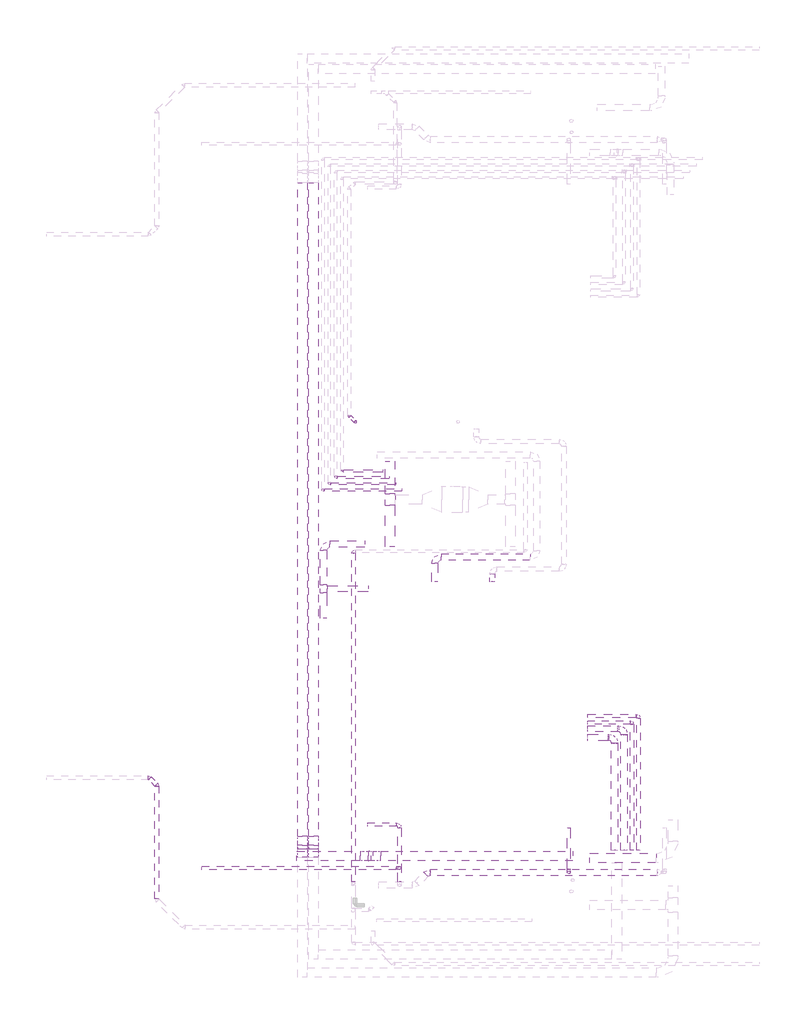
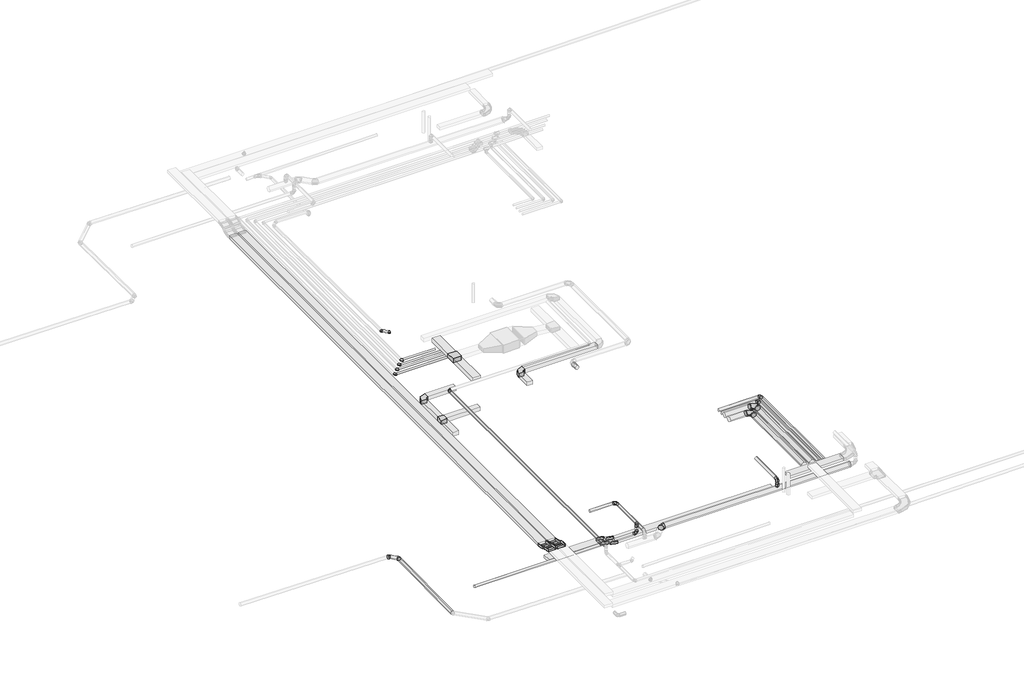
# One storey, part 2 of 5: 16 duct segments, 16 pipe segments, 13 pipe fittings, 10 duct fittings, 8 cable carrier segments, 6 cable carrier fittings.
"""IFC4 building model written with IfcOpenShell, lengths in millimetres."""

from ifc_helpers import new_model, si_unit, point, frame, frame_2d, origin, place, context, project, spatial, polyline, circle_curve, trimmed, segment, composite_curve, outline, extrude, transform, mapped, element, save
from components import m_codo_vertical_exterior_de_canal_el_547dc688, m_codo_vertical_interior_de_canal_el_a775c4ca, apt_33348139, ext_8b80eda7, ext_110b8343, ext_95de42ea, m_codo_rectangular_radio_apt_1_w_a605e9b7, m_codo_redondo_ext_1_d_96ea52f9, m_codo_redondo_ext_1_d_19f6bd6d, pipe_fitting_911ec8aa, pipe_fitting_7b861d32, pipe_fitting_f5d6ed74, pipe_fitting_3b77712d, pipe_fitting_2358b14d, pipe_fitting_3a68447e, pipe_fitting_87aeffad

model = new_model("IFC4")

# Units and contexts
model_context = context("Model", 3, world=origin())
ifc_project = project(units=[si_unit("LENGTHUNIT", "METRE", prefix="MILLI")], contexts=[model_context])

# Site, building, storey
site = spatial("IfcSite", under=ifc_project)
building = spatial("IfcBuilding", under=site)
storey = spatial("IfcBuildingStorey", under=building, Name="Nivell 01 P01_PP", Elevation=11160.0)

# Cable carrier fittings
placement = place(None, origin())
m_codo_vertical_exterior_de_canal_el_shape = m_codo_vertical_exterior_de_canal_el_547dc688(model_context)
element("IfcCableCarrierFitting", 1, ObjectType="M_Codo vertical exterior de canal : EL", at=placement, inside=storey, context=model_context, shape_type="MappedRepresentation", body=[
    mapped(m_codo_vertical_exterior_de_canal_el_shape, transform((5357.0671065, -15355.3999814, 14410.0), x_axis=(0.0, 1.0, 0.0), y_axis=(0.0, 0.0, -1.0), z_axis=(-1.0, 0.0, 0.0))),
])
element("IfcCableCarrierFitting", 2, ObjectType="M_Codo vertical exterior de canal : EL", at=placement, inside=storey, context=model_context, shape_type="MappedRepresentation", body=[
    mapped(m_codo_vertical_exterior_de_canal_el_shape, transform((5008.2381883, -15355.3999814, 14410.0), x_axis=(0.0, -0.9238795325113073, 0.38268343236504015), y_axis=(0.0, -0.38268343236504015, -0.9238795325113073), z_axis=(1.0, 0.0, 0.0))),
])
element("IfcCableCarrierFitting", 3, ObjectType="M_Codo vertical exterior de canal : EL", at=placement, inside=storey, context=model_context, shape_type="MappedRepresentation", body=[
    mapped(m_codo_vertical_exterior_de_canal_el_shape, transform((6956.7785309, -15459.2996833, 14060.0), x_axis=(1.0, 0.0, 0.0), y_axis=(0.0, 0.0, -1.0), z_axis=(0.0, 1.0, 0.0))),
])
m_codo_vertical_interior_de_canal_el_shape = m_codo_vertical_interior_de_canal_el_a775c4ca(model_context)
element("IfcCableCarrierFitting", 4, ObjectType="M_Codo vertical interior de canal : EL", at=placement, inside=storey, context=model_context, shape_type="MappedRepresentation", body=[
    mapped(m_codo_vertical_interior_de_canal_el_shape, transform((5357.0671065, -14993.267947, 14260.0), x_axis=(0.0, 0.9238795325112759, -0.38268343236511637), y_axis=(0.0, 0.38268343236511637, 0.9238795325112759), z_axis=(1.0, 0.0, 0.0))),
])
element("IfcCableCarrierFitting", 5, ObjectType="M_Codo vertical interior de canal : EL", at=placement, inside=storey, context=model_context, shape_type="MappedRepresentation", body=[
    mapped(m_codo_vertical_interior_de_canal_el_shape, transform((5008.2381883, -14993.267947, 14260.0), x_axis=(0.0, -1.0, 0.0), y_axis=(0.0, 0.0, 1.0), z_axis=(-1.0, 0.0, 0.0))),
])
element("IfcCableCarrierFitting", 6, ObjectType="M_Codo vertical interior de canal : EL", at=placement, inside=storey, context=model_context, shape_type="MappedRepresentation", body=[
    mapped(m_codo_vertical_interior_de_canal_el_shape, transform((7318.9105653, -15459.2996833, 13910.0), x_axis=(0.9238795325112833, 0.0, -0.38268343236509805), y_axis=(0.38268343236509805, 0.0, 0.9238795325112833), z_axis=(0.0, -1.0, 0.0))),
])

# Cable carrier segments
element("IfcCableCarrierSegment", 7, ObjectType="EL", at=placement, inside=storey, context=model_context, shape_type="SweptSolid", body=[
    extrude(outline(polyline([(6812.1592023, -15309.2996833), (6812.1592023, -15609.2996833), (4831.7785309, -15609.2996833), (4831.7785309, -15309.2996833), (6812.1592023, -15309.2996833)])), frame((0.0, 0.0, 14010.0), z_axis=(0.0, 0.0, 1.0), x_axis=(1.0, 0.0, 0.0)), (0.0, 0.0, 1.0), 100.0),
])
element("IfcCableCarrierSegment", 8, ObjectType="EL", at=placement, inside=storey, context=model_context, shape_type="SweptSolid", body=[
    extrude(outline(polyline([(16089.6624278, -15371.1304394), (16089.6624278, -15671.1304394), (14011.0671065, -15671.1304394), (14011.0671065, -15371.1304394), (16089.6624278, -15371.1304394)])), frame((0.0, 0.0, 14210.0), z_axis=(0.0, 0.0, 1.0), x_axis=(1.0, 0.0, 0.0)), (0.0, 0.0, 1.0), 100.0),
])
element("IfcCableCarrierSegment", 9, ObjectType="EL", at=placement, inside=storey, context=model_context, shape_type="SweptSolid", body=[
    extrude(outline(polyline([(0.0, -300.0), (0.0, 0.0), (102.7302323, 0.0), (102.7302323, -300.0), (0.0, -300.0)])), frame((5207.0671065, -15240.9233153, 14308.4626023), z_axis=(0.0, 0.38268343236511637, 0.9238795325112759), x_axis=(0.0, 0.9238795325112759, -0.38268343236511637)), (0.0, 0.0, 1.0), 100.0),
])
element("IfcCableCarrierSegment", 10, ObjectType="EL", at=placement, inside=storey, context=model_context, shape_type="SweptSolid", body=[
    extrude(outline(polyline([(5507.0671065, -14848.6486184), (5207.0671065, -14848.6486184), (5207.0671065, 5634.423571), (5507.0671065, 5634.423571), (5507.0671065, -14848.6486184)])), frame((0.0, 0.0, 14210.0), z_axis=(0.0, 0.0, 1.0), x_axis=(1.0, 0.0, 0.0)), (0.0, 0.0, 1.0), 100.0),
])
element("IfcCableCarrierSegment", 11, ObjectType="EL", at=placement, inside=storey, context=model_context, shape_type="SweptSolid", body=[
    extrude(outline(polyline([(4858.2381883, 5634.423571), (5158.2381883, 5634.423571), (5158.2381883, -14848.6486184), (4858.2381883, -14848.6486184), (4858.2381883, 5634.423571)])), frame((0.0, 0.0, 14210.0), z_axis=(0.0, 0.0, 1.0), x_axis=(1.0, 0.0, 0.0)), (0.0, 0.0, 1.0), 100.0),
])
element("IfcCableCarrierSegment", 12, ObjectType="EL", at=placement, inside=storey, context=model_context, shape_type="SweptSolid", body=[
    extrude(outline(polyline([(0.0, -300.0), (0.0, 0.0), (102.7302323, 0.0), (102.7302323, -300.0), (0.0, -300.0)])), frame((5158.2381883, -15146.0129563, 14269.1494444), z_axis=(0.0, 0.3826834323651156, 0.9238795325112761), x_axis=(0.0, -0.9238795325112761, 0.3826834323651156)), (0.0, 0.0, 1.0), 100.0),
])
element("IfcCableCarrierSegment", 13, ObjectType="EL", at=placement, inside=storey, context=model_context, shape_type="SweptSolid", body=[
    extrude(outline(polyline([(7463.5298938, -15609.2996833), (7463.5298938, -15309.2996833), (13469.9876148, -15309.2996833), (13469.9876148, -15609.2996833), (7463.5298938, -15609.2996833)])), frame((0.0, 0.0, 13860.0), z_axis=(0.0, 0.0, 1.0), x_axis=(1.0, 0.0, 0.0)), (0.0, 0.0, 1.0), 100.0),
])
element("IfcCableCarrierSegment", 14, ObjectType="EL", at=placement, inside=storey, context=model_context, shape_type="SweptSolid", body=[
    extrude(outline(polyline([(0.0, -300.0), (0.0, 0.0), (102.7302323, 0.0), (102.7302323, -300.0), (0.0, -300.0)])), frame((7071.255197, -15309.2996833, 13958.4626023), z_axis=(0.38268343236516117, 0.0, 0.9238795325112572), x_axis=(0.9238795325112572, 0.0, -0.38268343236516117)), (0.0, 0.0, 1.0), 100.0),
])

# Duct fittings
apt_shape = apt_33348139(model_context)
element("IfcDuctFitting", 15, ObjectType="M_Te rectangular : APT", at=placement, inside=storey, context=model_context, shape_type="MappedRepresentation", body=[
    mapped(apt_shape, transform((5665.7790997, -7084.7059364, 14310.0), x_axis=(0.0, 1.0, 0.0), y_axis=(-1.0, 0.0, 0.0), z_axis=(0.0, 0.0, 1.0))),
])
ext_shape = ext_8b80eda7(model_context)
element("IfcDuctFitting", 16, ObjectType="M_Toma de derivación redonda : EXT", at=placement, inside=storey, context=model_context, shape_type="MappedRepresentation", body=[
    mapped(ext_shape, transform((13350.5896993, -15972.9719502, 14340.0), x_axis=(0.0, 0.0, 1.0), y_axis=(-1.0, 0.0, 0.0), z_axis=(0.0, -1.0, 0.0))),
])
ext_2_shape = ext_110b8343(model_context)
element("IfcDuctFitting", 17, ObjectType="M_Toma de derivación redonda : EXT", at=placement, inside=storey, context=model_context, shape_type="MappedRepresentation", body=[
    mapped(ext_2_shape, transform((8050.5896993, -15837.2857017, 14560.0), x_axis=(0.0, 0.0, -1.0), y_axis=(0.0, -1.0, 0.0), z_axis=(-1.0, 0.0, 0.0))),
])
ext_3_shape = ext_95de42ea(model_context)
element("IfcDuctFitting", 18, ObjectType="M_Te rectangular : EXT", at=placement, inside=storey, context=model_context, shape_type="MappedRepresentation", body=[
    mapped(ext_3_shape, transform((7746.1618177, -4289.990201, 14427.1198525), x_axis=(0.0, 1.0, 0.0), y_axis=(-1.0, 0.0, 0.0), z_axis=(0.0, 0.0, 1.0))),
])
m_codo_rectangular_radio_apt_1_w_shape = m_codo_rectangular_radio_apt_1_w_a605e9b7(model_context)
element("IfcDuctFitting", 19, ObjectType="M_Codo rectangular - Radio : APT_1 W", at=placement, inside=storey, context=model_context, shape_type="MappedRepresentation", body=[
    mapped(m_codo_rectangular_radio_apt_1_w_shape, transform((5665.7790997, -5684.7059364, 14310.0), x_axis=(-1.0, 0.0, 0.0), y_axis=(0.0, -1.0, 0.0), z_axis=(0.0, 0.0, 1.0))),
])
element("IfcDuctFitting", 20, ObjectType="M_Codo rectangular - Radio : EXT_1 W", at=placement, inside=storey, context=model_context, shape_type="MappedRepresentation", body=[
    mapped(m_codo_rectangular_radio_apt_1_w_shape, transform((9151.1206995, -6088.8306037, 14435.0), x_axis=(-1.0, 0.0, 0.0), y_axis=(0.0, -1.0, 0.0), z_axis=(0.0, 0.0, 1.0))),
])
m_codo_redondo_ext_1_d_shape = m_codo_redondo_ext_1_d_96ea52f9(model_context)
element("IfcDuctFitting", 21, ObjectType="M_Codo redondo : EXT_1 D", at=placement, inside=storey, context=model_context, shape_type="MappedRepresentation", body=[
    mapped(m_codo_redondo_ext_1_d_shape, transform((8050.5896993, -14471.4839002, 14610.0), x_axis=(1.0, 0.0, 0.0), y_axis=(0.0, 1.0, 0.0), z_axis=(0.0, 0.0, 1.0))),
])
element("IfcDuctFitting", 22, ObjectType="M_Codo redondo : EXT_1 D", at=placement, inside=storey, context=model_context, shape_type="MappedRepresentation", body=[
    mapped(m_codo_redondo_ext_1_d_shape, transform((13350.5896993, -15972.9719502, 14610.0), x_axis=(0.0, -1.0, 0.0), y_axis=(0.0, 0.0, 1.0), z_axis=(-1.0, 0.0, 0.0))),
])
element("IfcDuctFitting", 23, ObjectType="M_Codo redondo : EXT_1 D", at=placement, inside=storey, context=model_context, shape_type="MappedRepresentation", body=[
    mapped(m_codo_redondo_ext_1_d_shape, transform((8050.5896993, -15837.2857017, 14210.0), x_axis=(0.0, 0.0, -1.0), y_axis=(1.0, 0.0, 0.0), z_axis=(0.0, -1.0, 0.0))),
])
m_codo_redondo_ext_1_d_2_shape = m_codo_redondo_ext_1_d_19f6bd6d(model_context)
element("IfcDuctFitting", 24, ObjectType="M_Codo redondo : EXT_1 D", at=placement, inside=storey, context=model_context, shape_type="MappedRepresentation", body=[
    mapped(m_codo_redondo_ext_1_d_2_shape, transform((8930.5896993, -15972.9719502, 14240.0), x_axis=(0.7071067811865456, 0.7071067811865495, 0.0), y_axis=(-0.7071067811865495, 0.7071067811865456, 0.0), z_axis=(0.0, 0.0, 1.0))),
])

# Duct segments
element("IfcDuctSegment", 25, ObjectType="APT_Fibra de vidre rígida", at=placement, inside=storey, context=model_context, shape_type="SweptSolid", body=[
    extrude(outline(polyline([(7065.7790997, -6984.7059364), (7065.7790997, -7184.7059364), (5790.7790997, -7184.7059364), (5790.7790997, -6984.7059364), (7065.7790997, -6984.7059364)])), frame((0.0, 0.0, 14235.0), z_axis=(0.0, 0.0, 1.0), x_axis=(1.0, 0.0, 0.0)), (0.0, 0.0, 1.0), 150.0),
])
element("IfcDuctSegment", 26, ObjectType="APT_Fibra de vidre rígida", at=placement, inside=storey, context=model_context, shape_type="SweptSolid", body=[
    extrude(outline(polyline([(5765.7790997, -6959.7059364), (5565.7790997, -6959.7059364), (5565.7790997, -5884.7059364), (5765.7790997, -5884.7059364), (5765.7790997, -6959.7059364)])), frame((0.0, 0.0, 14235.0), z_axis=(0.0, 0.0, 1.0), x_axis=(1.0, 0.0, 0.0)), (0.0, 0.0, 1.0), 150.0),
])
element("IfcDuctSegment", 27, ObjectType="APT_Fibra de vidre rígida", at=placement, inside=storey, context=model_context, shape_type="SweptSolid", body=[
    extrude(outline(polyline([(5865.7790997, -5784.7059364), (5865.7790997, -5584.7059364), (6965.7790997, -5584.7059364), (6965.7790997, -5784.7059364), (5865.7790997, -5784.7059364)])), frame((0.0, 0.0, 14235.0), z_axis=(0.0, 0.0, 1.0), x_axis=(1.0, 0.0, 0.0)), (0.0, 0.0, 1.0), 150.0),
])
element("IfcDuctSegment", 28, ObjectType="APT_Fibra de vidre rígida", at=placement, inside=storey, context=model_context, shape_type="SweptSolid", body=[
    extrude(outline(polyline([(5565.7790997, -7209.7059364), (5765.7790997, -7209.7059364), (5765.7790997, -8009.7059364), (5565.7790997, -8009.7059364), (5565.7790997, -7209.7059364)])), frame((0.0, 0.0, 14235.0), z_axis=(0.0, 0.0, 1.0), x_axis=(1.0, 0.0, 0.0)), (0.0, 0.0, 1.0), 150.0),
])
element("IfcDuctSegment", 29, ObjectType="EXT_Fibra de vidre rígida", at=placement, inside=storey, context=model_context, shape_type="SweptSolid", body=[
    extrude(outline(polyline([(9351.1206995, -6188.8306037), (9351.1206995, -5988.8306037), (12151.1206995, -5988.8306037), (12151.1206995, -6188.8306037), (9351.1206995, -6188.8306037)])), frame((0.0, 0.0, 14360.0), z_axis=(0.0, 0.0, 1.0), x_axis=(1.0, 0.0, 0.0)), (0.0, 0.0, 1.0), 150.0),
])
element("IfcDuctSegment", 30, ObjectType="EXT_Fibra de vidre rígida", at=placement, inside=storey, context=model_context, shape_type="SweptSolid", body=[
    extrude(outline(polyline([(9251.1206995, -6868.8306037), (9051.1206995, -6868.8306037), (9051.1206995, -6288.8306037), (9251.1206995, -6288.8306037), (9251.1206995, -6868.8306037)])), frame((0.0, 0.0, 14360.0), z_axis=(0.0, 0.0, 1.0), x_axis=(1.0, 0.0, 0.0)), (0.0, 0.0, 1.0), 150.0),
])
element("IfcDuctSegment", 31, ObjectType="EXT_Acer Galvanitzat - Rígid", at=placement, inside=storey, context=model_context, shape_type="SweptSolid", body=[
    extrude(outline(composite_curve([segment(trimmed(circle_curve(frame_2d((14435.0, 10951.1206995)), 75.0), [point((14435.0, 11026.1206995))], [point((14510.0, 10951.1206995))], False, "CARTESIAN"), True, "CONTINUOUS"), segment(trimmed(circle_curve(frame_2d((14435.0, 10951.1206995)), 75.0), [point((14510.0, 10951.1206995))], [point((14435.0, 10876.1206995))], False, "CARTESIAN"), True, "CONTINUOUS"), segment(trimmed(circle_curve(frame_2d((14435.0, 10951.1206995)), 75.0), [point((14435.0, 10876.1206995))], [point((14360.0, 10951.1206995))], False, "CARTESIAN"), True, "CONTINUOUS"), segment(trimmed(circle_curve(frame_2d((14435.0, 10951.1206995)), 75.0), [point((14360.0, 10951.1206995))], [point((14435.0, 11026.1206995))], False, "CARTESIAN"), True, "CONTINUOUS")], self_intersect=False)), frame((0.0, -6868.8306037, 0.0), z_axis=(0.0, 1.0, 0.0), x_axis=(0.0, 0.0, 1.0)), (0.0, 0.0, 1.0), 250.0),
])
element("IfcDuctSegment", 32, ObjectType="EXT_Acer Galvanitzat - Rígid", at=placement, inside=storey, context=model_context, shape_type="SweptSolid", body=[
    extrude(outline(composite_curve([segment(trimmed(circle_curve(frame_2d((-15972.9719502, 14240.0)), 100.0), [point((-15872.9719502, 14240.0))], [point((-15972.9719502, 14140.0))], False, "CARTESIAN"), True, "CONTINUOUS"), segment(trimmed(circle_curve(frame_2d((-15972.9719502, 14240.0)), 100.0), [point((-15972.9719502, 14140.0))], [point((-16072.9719502, 14240.0))], False, "CARTESIAN"), True, "CONTINUOUS"), segment(trimmed(circle_curve(frame_2d((-15972.9719502, 14240.0)), 100.0), [point((-16072.9719502, 14240.0))], [point((-15972.9719502, 14340.0))], False, "CARTESIAN"), True, "CONTINUOUS"), segment(trimmed(circle_curve(frame_2d((-15972.9719502, 14240.0)), 100.0), [point((-15972.9719502, 14340.0))], [point((-15872.9719502, 14240.0))], False, "CARTESIAN"), True, "CONTINUOUS")], self_intersect=False)), frame((9013.4324117, 0.0, 0.0), z_axis=(1.0, 0.0, 0.0), x_axis=(0.0, 1.0, 0.0)), (0.0, 0.0, 1.0), 7116.4466094),
])
element("IfcDuctSegment", 33, ObjectType="EXT_Acer Galvanitzat - Rígid", at=placement, inside=storey, context=model_context, shape_type="SweptSolid", body=[
    extrude(outline(composite_curve([segment(trimmed(circle_curve(frame_2d((-14471.4839002, 14610.0)), 50.0), [point((-14521.4839002, 14610.0))], [point((-14471.4839002, 14660.0))], False, "CARTESIAN"), True, "CONTINUOUS"), segment(trimmed(circle_curve(frame_2d((-14471.4839002, 14610.0)), 50.0), [point((-14471.4839002, 14660.0))], [point((-14421.4839002, 14610.0))], False, "CARTESIAN"), True, "CONTINUOUS"), segment(trimmed(circle_curve(frame_2d((-14471.4839002, 14610.0)), 50.0), [point((-14421.4839002, 14610.0))], [point((-14471.4839002, 14560.0))], False, "CARTESIAN"), True, "CONTINUOUS"), segment(trimmed(circle_curve(frame_2d((-14471.4839002, 14610.0)), 50.0), [point((-14471.4839002, 14560.0))], [point((-14521.4839002, 14610.0))], False, "CARTESIAN"), True, "CONTINUOUS")], self_intersect=False)), frame((7050.5896993, 0.0, 0.0), z_axis=(1.0, 0.0, 0.0), x_axis=(0.0, 1.0, 0.0)), (0.0, 0.0, 1.0), 900.0),
])
element("IfcDuctSegment", 34, ObjectType="EXT_Acer Galvanitzat - Rígid", at=placement, inside=storey, context=model_context, shape_type="SweptSolid", body=[
    extrude(outline(composite_curve([segment(trimmed(circle_curve(frame_2d((14610.0, 8050.5896993)), 50.0), [point((14610.0, 8100.5896993))], [point((14660.0, 8050.5896993))], False, "CARTESIAN"), True, "CONTINUOUS"), segment(trimmed(circle_curve(frame_2d((14610.0, 8050.5896993)), 50.0), [point((14660.0, 8050.5896993))], [point((14610.0, 8000.5896993))], False, "CARTESIAN"), True, "CONTINUOUS"), segment(trimmed(circle_curve(frame_2d((14610.0, 8050.5896993)), 50.0), [point((14610.0, 8000.5896993))], [point((14560.0, 8050.5896993))], False, "CARTESIAN"), True, "CONTINUOUS"), segment(trimmed(circle_curve(frame_2d((14610.0, 8050.5896993)), 50.0), [point((14560.0, 8050.5896993))], [point((14610.0, 8100.5896993))], False, "CARTESIAN"), True, "CONTINUOUS")], self_intersect=False)), frame((0.0, -16272.9719502, 0.0), z_axis=(0.0, 1.0, 0.0), x_axis=(0.0, 0.0, 1.0)), (0.0, 0.0, 1.0), 1701.48805),
])
element("IfcDuctSegment", 35, ObjectType="EXT_Acer Galvanitzat - Rígid", at=placement, inside=storey, context=model_context, shape_type="SweptSolid", body=[
    extrude(outline(composite_curve([segment(trimmed(circle_curve(frame_2d((14610.0, 13350.5896993)), 50.0), [point((14610.0, 13400.5896993))], [point((14660.0, 13350.5896993))], False, "CARTESIAN"), True, "CONTINUOUS"), segment(trimmed(circle_curve(frame_2d((14610.0, 13350.5896993)), 50.0), [point((14660.0, 13350.5896993))], [point((14610.0, 13300.5896993))], False, "CARTESIAN"), True, "CONTINUOUS"), segment(trimmed(circle_curve(frame_2d((14610.0, 13350.5896993)), 50.0), [point((14610.0, 13300.5896993))], [point((14560.0, 13350.5896993))], False, "CARTESIAN"), True, "CONTINUOUS"), segment(trimmed(circle_curve(frame_2d((14610.0, 13350.5896993)), 50.0), [point((14560.0, 13350.5896993))], [point((14610.0, 13400.5896993))], False, "CARTESIAN"), True, "CONTINUOUS")], self_intersect=False)), frame((0.0, -15872.9719502, 0.0), z_axis=(0.0, 1.0, 0.0), x_axis=(0.0, 0.0, 1.0)), (0.0, 0.0, 1.0), 1301.48805),
])
element("IfcDuctSegment", 36, ObjectType="EXT_Acer Galvanitzat - Rígid", at=placement, inside=storey, context=model_context, shape_type="SweptSolid", body=[
    extrude(outline(composite_curve([segment(trimmed(circle_curve(frame_2d((13350.5896993, -15972.9719502)), 50.0), [point((13300.5896993, -15972.9719502))], [point((13350.5896993, -15922.9719502))], False, "CARTESIAN"), True, "CONTINUOUS"), segment(trimmed(circle_curve(frame_2d((13350.5896993, -15972.9719502)), 50.0), [point((13350.5896993, -15922.9719502))], [point((13400.5896993, -15972.9719502))], False, "CARTESIAN"), True, "CONTINUOUS"), segment(trimmed(circle_curve(frame_2d((13350.5896993, -15972.9719502)), 50.0), [point((13400.5896993, -15972.9719502))], [point((13350.5896993, -16022.9719502))], False, "CARTESIAN"), True, "CONTINUOUS"), segment(trimmed(circle_curve(frame_2d((13350.5896993, -15972.9719502)), 50.0), [point((13350.5896993, -16022.9719502))], [point((13300.5896993, -15972.9719502))], False, "CARTESIAN"), True, "CONTINUOUS")], self_intersect=False)), frame((0.0, 0.0, 14441.6), z_axis=(0.0, 0.0, 1.0), x_axis=(1.0, 0.0, 0.0)), (0.0, 0.0, 1.0), 68.4),
])
element("IfcDuctSegment", 37, ObjectType="EXT_Acer Galvanitzat - Rígid", at=placement, inside=storey, context=model_context, shape_type="SweptSolid", body=[
    extrude(outline(composite_curve([segment(trimmed(circle_curve(frame_2d((8050.5896993, -15837.2857017)), 50.0), [point((8050.5896993, -15787.2857017))], [point((8100.5896993, -15837.2857017))], False, "CARTESIAN"), True, "CONTINUOUS"), segment(trimmed(circle_curve(frame_2d((8050.5896993, -15837.2857017)), 50.0), [point((8100.5896993, -15837.2857017))], [point((8050.5896993, -15887.2857017))], False, "CARTESIAN"), True, "CONTINUOUS"), segment(trimmed(circle_curve(frame_2d((8050.5896993, -15837.2857017)), 50.0), [point((8050.5896993, -15887.2857017))], [point((8000.5896993, -15837.2857017))], False, "CARTESIAN"), True, "CONTINUOUS"), segment(trimmed(circle_curve(frame_2d((8050.5896993, -15837.2857017)), 50.0), [point((8000.5896993, -15837.2857017))], [point((8050.5896993, -15787.2857017))], False, "CARTESIAN"), True, "CONTINUOUS")], self_intersect=False)), frame((0.0, 0.0, 14310.0), z_axis=(0.0, 0.0, 1.0), x_axis=(1.0, 0.0, 0.0)), (0.0, 0.0, 1.0), 148.4),
])
element("IfcDuctSegment", 38, ObjectType="EXT_Acer Galvanitzat - Rígid", at=placement, inside=storey, context=model_context, shape_type="SweptSolid", body=[
    extrude(outline(composite_curve([segment(trimmed(circle_curve(frame_2d((-15837.2857017, 14210.0)), 50.0), [point((-15787.2857017, 14210.0))], [point((-15837.2857017, 14160.0))], False, "CARTESIAN"), True, "CONTINUOUS"), segment(trimmed(circle_curve(frame_2d((-15837.2857017, 14210.0)), 50.0), [point((-15837.2857017, 14160.0))], [point((-15887.2857017, 14210.0))], False, "CARTESIAN"), True, "CONTINUOUS"), segment(trimmed(circle_curve(frame_2d((-15837.2857017, 14210.0)), 50.0), [point((-15887.2857017, 14210.0))], [point((-15837.2857017, 14260.0))], False, "CARTESIAN"), True, "CONTINUOUS"), segment(trimmed(circle_curve(frame_2d((-15837.2857017, 14210.0)), 50.0), [point((-15837.2857017, 14260.0))], [point((-15787.2857017, 14210.0))], False, "CARTESIAN"), True, "CONTINUOUS")], self_intersect=False)), frame((1850.5896993, 0.0, 0.0), z_axis=(1.0, 0.0, 0.0), x_axis=(0.0, 1.0, 0.0)), (0.0, 0.0, 1.0), 6100.0),
])
element("IfcDuctSegment", 39, ObjectType="EXT_Planxa galvanitzada", at=placement, inside=storey, context=model_context, shape_type="SweptSolid", body=[
    extrude(outline(polyline([(7896.1618177, -4114.9902017), (7596.1618177, -4114.9902002), (7596.1618227, -3089.9878578), (7896.1618227, -3089.9878592), (7896.1618177, -4114.9902017)])), frame((0.0, 0.0, 14352.1198525), z_axis=(0.0, 0.0, 1.0), x_axis=(1.0, 0.0, 0.0)), (0.0, 0.0, 1.0), 150.0),
])
element("IfcDuctSegment", 40, ObjectType="EXT_Planxa galvanitzada", at=placement, inside=storey, context=model_context, shape_type="SweptSolid", body=[
    extrude(outline(polyline([(7596.1618177, -4464.9902015), (7896.1618177, -4464.9902004), (7896.1618227, -5765.056672), (7596.1618227, -5765.0566731), (7596.1618177, -4464.9902015)])), frame((0.0, 0.0, 14352.1198525), z_axis=(0.0, 0.0, 1.0), x_axis=(1.0, 0.0, 0.0)), (0.0, 0.0, 1.0), 150.0),
])

# Pipe fittings
pipe_fitting_shape = pipe_fitting_911ec8aa(model_context)
element("IfcPipeFitting", 41, ObjectType="M_Codo - Genérico : Estándar", at=placement, inside=storey, context=model_context, shape_type="MappedRepresentation", body=[
    mapped(pipe_fitting_shape, transform((448.2074284, -13245.5027622, 14265.4389993), x_axis=(0.7070714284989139, -0.7070714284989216, -0.009999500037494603), y_axis=(0.707130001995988, 0.7070714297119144, 0.004141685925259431), z_axis=(0.004141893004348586, -0.009999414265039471, 0.9999414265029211))),
])
element("IfcPipeFitting", 42, ObjectType="M_Codo - Genérico : Estándar", at=placement, inside=storey, context=model_context, shape_type="MappedRepresentation", body=[
    mapped(pipe_fitting_shape, transform((207.7911228, -13005.0864566, 14268.8389993), x_axis=(0.9999500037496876, 0.0, -0.009999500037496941), y_axis=(4.141685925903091e-05, 0.9999914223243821, 0.004141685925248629), z_axis=(0.009999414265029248, -0.004141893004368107, 0.9999414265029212))),
])
pipe_fitting_2_shape = pipe_fitting_7b861d32(model_context)
element("IfcPipeFitting", 43, ObjectType="M_Codo - Genérico : Estándar", at=placement, inside=storey, context=model_context, shape_type="MappedRepresentation", body=[
    mapped(pipe_fitting_2_shape, transform((6477.7328371, -1666.9305244, 14328.3813632), x_axis=(0.0, -0.9999500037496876, 0.00999950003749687), y_axis=(0.9999914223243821, 4.1416859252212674e-05, 0.004141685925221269), z_axis=(-0.004141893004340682, 0.009999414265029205, 0.9999414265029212))),
])
pipe_fitting_3_shape = pipe_fitting_f5d6ed74(model_context)
element("IfcPipeFitting", 44, ObjectType="M_Codo - Genérico : Estándar", at=placement, inside=storey, context=model_context, shape_type="MappedRepresentation", body=[
    mapped(pipe_fitting_3_shape, transform((6662.9687849, -1852.1664722, 14331.0009951), x_axis=(0.707071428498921, -0.7070714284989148, 0.00999950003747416), y_axis=(0.7070714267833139, 0.7071300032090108, 0.004141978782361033), z_axis=(-0.009999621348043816, 0.004141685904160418, 0.9999414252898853))),
])
pipe_fitting_4_shape = pipe_fitting_3b77712d(model_context)
element("IfcPipeFitting", 45, ObjectType="M_Codo - Genérico : Estándar", at=placement, inside=storey, context=model_context, shape_type="MappedRepresentation", body=[
    mapped(pipe_fitting_4_shape, transform((15537.4352568, -11073.2087902, 14215.0), x_axis=(1.0, 0.0, 0.0), y_axis=(0.0, 1.0, 0.0), z_axis=(0.0, 0.0, 1.0))),
])
element("IfcPipeFitting", 46, ObjectType="M_Codo - Genérico : Estándar", at=placement, inside=storey, context=model_context, shape_type="MappedRepresentation", body=[
    mapped(pipe_fitting_4_shape, transform((15337.4352568, -11273.2087902, 14215.0), x_axis=(1.0, 0.0, 0.0), y_axis=(0.0, 1.0, 0.0), z_axis=(0.0, 0.0, 1.0))),
])
pipe_fitting_5_shape = pipe_fitting_2358b14d(model_context)
element("IfcPipeFitting", 47, ObjectType="Codo 90º Soldadura a Tope SDR 11 BluePipe : Estándar", at=placement, inside=storey, context=model_context, shape_type="MappedRepresentation", body=[
    mapped(pipe_fitting_5_shape, transform((14787.4352568, -11743.2087902, 14260.0), x_axis=(1.0, 0.0, 0.0), y_axis=(0.0, 1.0, 0.0), z_axis=(0.0, 0.0, 1.0))),
])
element("IfcPipeFitting", 48, ObjectType="Codo 90º Soldadura a Tope SDR 11 BluePipe : Estándar", at=placement, inside=storey, context=model_context, shape_type="MappedRepresentation", body=[
    mapped(pipe_fitting_5_shape, transform((15087.4352568, -11473.2087902, 14260.0), x_axis=(1.0, 0.0, 0.0), y_axis=(0.0, 1.0, 0.0), z_axis=(0.0, 0.0, 1.0))),
])
pipe_fitting_6_shape = pipe_fitting_3a68447e(model_context)
element("IfcPipeFitting", 49, ObjectType="M_Codo - Genérico : Estándar", at=placement, inside=storey, context=model_context, shape_type="MappedRepresentation", body=[
    mapped(pipe_fitting_6_shape, transform((6245.7381883, -3394.9253722, 14272.5), x_axis=(0.0, -1.0, 0.0), y_axis=(1.0, 0.0, 0.0), z_axis=(0.0, 0.0, 1.0))),
])
element("IfcPipeFitting", 50, ObjectType="M_Codo - Genérico : Estándar", at=placement, inside=storey, context=model_context, shape_type="MappedRepresentation", body=[
    mapped(pipe_fitting_6_shape, transform((6045.7381883, -3594.9253722, 14272.5), x_axis=(0.0, -1.0, 0.0), y_axis=(1.0, 0.0, 0.0), z_axis=(0.0, 0.0, 1.0))),
])
element("IfcPipeFitting", 51, ObjectType="M_Codo - Genérico : Estándar", at=placement, inside=storey, context=model_context, shape_type="MappedRepresentation", body=[
    mapped(pipe_fitting_6_shape, transform((5845.7381883, -3794.9253722, 14272.5), x_axis=(0.0, -1.0, 0.0), y_axis=(1.0, 0.0, 0.0), z_axis=(0.0, 0.0, 1.0))),
])
element("IfcPipeFitting", 52, ObjectType="M_Codo - Genérico : Estándar", at=placement, inside=storey, context=model_context, shape_type="MappedRepresentation", body=[
    mapped(pipe_fitting_6_shape, transform((5645.7381883, -3994.9253722, 14272.5), x_axis=(0.0, -1.0, 0.0), y_axis=(1.0, 0.0, 0.0), z_axis=(0.0, 0.0, 1.0))),
])
pipe_fitting_7_shape = pipe_fitting_87aeffad(model_context)
element("IfcPipeFitting", 53, ObjectType="M_Codo - Genérico : Estándar", at=placement, inside=storey, context=model_context, shape_type="MappedRepresentation", body=[
    mapped(pipe_fitting_7_shape, transform((6603.8941113, -5912.8731458, 14460.8), x_axis=(-1.0, 0.0, 0.0), y_axis=(0.0, -1.0, 0.0), z_axis=(0.0, 0.0, 1.0))),
])

# Pipe segments
element("IfcPipeSegment", 54, ObjectType="PVC_Baixant", at=placement, inside=storey, context=model_context, shape_type="SweptSolid", body=[
    extrude(outline(composite_curve([segment(trimmed(circle_curve(frame_2d((1e-07, -45.0)), 45.0), [point((44.9977504, -44.550045))], [point((0.4499551, -89.9977504))], False, "CARTESIAN"), True, "CONTINUOUS"), segment(trimmed(circle_curve(frame_2d((1e-07, -45.0)), 45.0), [point((0.4499551, -89.9977504))], [point((-44.9977503, -45.449955))], False, "CARTESIAN"), True, "CONTINUOUS"), segment(trimmed(circle_curve(frame_2d((1e-07, -45.0)), 45.0), [point((-44.9977503, -45.449955))], [point((-0.449955, -0.0022497))], False, "CARTESIAN"), True, "CONTINUOUS"), segment(trimmed(circle_curve(frame_2d((1e-07, -45.0)), 45.0), [point((-0.449955, -0.0022497))], [point((44.9977504, -44.550045))], False, "CARTESIAN"), True, "CONTINUOUS")], self_intersect=False)), frame((6493.0751147, -1681.6364696, 14373.5938365), z_axis=(0.7070714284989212, -0.7070714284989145, 0.009999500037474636), x_axis=(0.7071421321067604, 0.7070007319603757, -0.009998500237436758)), (0.0, 0.0, 1.0), 218.5780692),
])
element("IfcPipeSegment", 55, ObjectType="PPR_CLI_Aquatherm Blue Pipe", at=placement, inside=storey, context=model_context, shape_type="SweptSolid", body=[
    extrude(outline(composite_curve([segment(trimmed(circle_curve(frame_2d((-3394.9253722, 14272.5)), 37.5), [point((-3432.4253722, 14272.5))], [point((-3394.9253722, 14310.0))], False, "CARTESIAN"), True, "CONTINUOUS"), segment(trimmed(circle_curve(frame_2d((-3394.9253722, 14272.5)), 37.5), [point((-3394.9253722, 14310.0))], [point((-3357.4253722, 14272.5))], False, "CARTESIAN"), True, "CONTINUOUS"), segment(trimmed(circle_curve(frame_2d((-3394.9253722, 14272.5)), 37.5), [point((-3357.4253722, 14272.5))], [point((-3394.9253722, 14235.0))], False, "CARTESIAN"), True, "CONTINUOUS"), segment(trimmed(circle_curve(frame_2d((-3394.9253722, 14272.5)), 37.5), [point((-3394.9253722, 14235.0))], [point((-3432.4253722, 14272.5))], False, "CARTESIAN"), True, "CONTINUOUS")], self_intersect=False)), frame((6291.1756883, 0.0, 0.0), z_axis=(1.0, 0.0, 0.0), x_axis=(0.0, 1.0, 0.0)), (0.0, 0.0, 1.0), 1234.603417),
])
element("IfcPipeSegment", 56, ObjectType="PPR_CLI_Aquatherm Blue Pipe", at=placement, inside=storey, context=model_context, shape_type="SweptSolid", body=[
    extrude(outline(composite_curve([segment(trimmed(circle_curve(frame_2d((-3594.9253722, 14272.5)), 37.5), [point((-3632.4253722, 14272.5))], [point((-3594.9253722, 14310.0))], False, "CARTESIAN"), True, "CONTINUOUS"), segment(trimmed(circle_curve(frame_2d((-3594.9253722, 14272.5)), 37.5), [point((-3594.9253722, 14310.0))], [point((-3557.4253722, 14272.5))], False, "CARTESIAN"), True, "CONTINUOUS"), segment(trimmed(circle_curve(frame_2d((-3594.9253722, 14272.5)), 37.5), [point((-3557.4253722, 14272.5))], [point((-3594.9253722, 14235.0))], False, "CARTESIAN"), True, "CONTINUOUS"), segment(trimmed(circle_curve(frame_2d((-3594.9253722, 14272.5)), 37.5), [point((-3594.9253722, 14235.0))], [point((-3632.4253722, 14272.5))], False, "CARTESIAN"), True, "CONTINUOUS")], self_intersect=False)), frame((6091.1756883, 0.0, 0.0), z_axis=(1.0, 0.0, 0.0), x_axis=(0.0, 1.0, 0.0)), (0.0, 0.0, 1.0), 1634.603417),
])
element("IfcPipeSegment", 57, ObjectType="PPR_CLI_Aquatherm Blue Pipe", at=placement, inside=storey, context=model_context, shape_type="SweptSolid", body=[
    extrude(outline(composite_curve([segment(trimmed(circle_curve(frame_2d((-3794.9253722, 14272.5)), 37.5), [point((-3832.4253722, 14272.5))], [point((-3794.9253722, 14310.0))], False, "CARTESIAN"), True, "CONTINUOUS"), segment(trimmed(circle_curve(frame_2d((-3794.9253722, 14272.5)), 37.5), [point((-3794.9253722, 14310.0))], [point((-3757.4253722, 14272.5))], False, "CARTESIAN"), True, "CONTINUOUS"), segment(trimmed(circle_curve(frame_2d((-3794.9253722, 14272.5)), 37.5), [point((-3757.4253722, 14272.5))], [point((-3794.9253722, 14235.0))], False, "CARTESIAN"), True, "CONTINUOUS"), segment(trimmed(circle_curve(frame_2d((-3794.9253722, 14272.5)), 37.5), [point((-3794.9253722, 14235.0))], [point((-3832.4253722, 14272.5))], False, "CARTESIAN"), True, "CONTINUOUS")], self_intersect=False)), frame((5891.1756883, 0.0, 0.0), z_axis=(1.0, 0.0, 0.0), x_axis=(0.0, 1.0, 0.0)), (0.0, 0.0, 1.0), 2034.603417),
])
element("IfcPipeSegment", 58, ObjectType="PPR_CLI_Aquatherm Blue Pipe", at=placement, inside=storey, context=model_context, shape_type="SweptSolid", body=[
    extrude(outline(composite_curve([segment(trimmed(circle_curve(frame_2d((-3994.9253722, 14272.5)), 37.5), [point((-4032.4253722, 14272.5))], [point((-3994.9253722, 14310.0))], False, "CARTESIAN"), True, "CONTINUOUS"), segment(trimmed(circle_curve(frame_2d((-3994.9253722, 14272.5)), 37.5), [point((-3994.9253722, 14310.0))], [point((-3957.4253722, 14272.5))], False, "CARTESIAN"), True, "CONTINUOUS"), segment(trimmed(circle_curve(frame_2d((-3994.9253722, 14272.5)), 37.5), [point((-3957.4253722, 14272.5))], [point((-3994.9253722, 14235.0))], False, "CARTESIAN"), True, "CONTINUOUS"), segment(trimmed(circle_curve(frame_2d((-3994.9253722, 14272.5)), 37.5), [point((-3994.9253722, 14235.0))], [point((-4032.4253722, 14272.5))], False, "CARTESIAN"), True, "CONTINUOUS")], self_intersect=False)), frame((5691.1756883, 0.0, 0.0), z_axis=(1.0, 0.0, 0.0), x_axis=(0.0, 1.0, 0.0)), (0.0, 0.0, 1.0), 2434.603417),
])
element("IfcPipeSegment", 59, ObjectType="PPR_CLI_Aquatherm Blue Pipe", at=placement, inside=storey, context=model_context, shape_type="SweptSolid", body=[
    extrude(outline(composite_curve([segment(trimmed(circle_curve(frame_2d((-11743.2087902, 14260.0)), 100.0), [point((-11643.2087902, 14260.0))], [point((-11743.2087902, 14160.0))], False, "CARTESIAN"), True, "CONTINUOUS"), segment(trimmed(circle_curve(frame_2d((-11743.2087902, 14260.0)), 100.0), [point((-11743.2087902, 14160.0))], [point((-11843.2087902, 14260.0))], False, "CARTESIAN"), True, "CONTINUOUS"), segment(trimmed(circle_curve(frame_2d((-11743.2087902, 14260.0)), 100.0), [point((-11843.2087902, 14260.0))], [point((-11743.2087902, 14360.0))], False, "CARTESIAN"), True, "CONTINUOUS"), segment(trimmed(circle_curve(frame_2d((-11743.2087902, 14260.0)), 100.0), [point((-11743.2087902, 14360.0))], [point((-11643.2087902, 14260.0))], False, "CARTESIAN"), True, "CONTINUOUS")], self_intersect=False)), frame((13947.4352568, 0.0, 0.0), z_axis=(1.0, 0.0, 0.0), x_axis=(0.0, 1.0, 0.0)), (0.0, 0.0, 1.0), 665.0),
])
element("IfcPipeSegment", 60, ObjectType="PPR_CLI_Aquatherm Blue Pipe", at=placement, inside=storey, context=model_context, shape_type="SweptSolid", body=[
    extrude(outline(composite_curve([segment(trimmed(circle_curve(frame_2d((14260.0, 14787.4352568)), 100.0), [point((14260.0, 14687.4352568))], [point((14160.0, 14787.4352568))], False, "CARTESIAN"), True, "CONTINUOUS"), segment(trimmed(circle_curve(frame_2d((14260.0, 14787.4352568)), 100.0), [point((14160.0, 14787.4352568))], [point((14260.0, 14887.4352568))], False, "CARTESIAN"), True, "CONTINUOUS"), segment(trimmed(circle_curve(frame_2d((14260.0, 14787.4352568)), 100.0), [point((14260.0, 14887.4352568))], [point((14360.0, 14787.4352568))], False, "CARTESIAN"), True, "CONTINUOUS"), segment(trimmed(circle_curve(frame_2d((14260.0, 14787.4352568)), 100.0), [point((14360.0, 14787.4352568))], [point((14260.0, 14687.4352568))], False, "CARTESIAN"), True, "CONTINUOUS")], self_intersect=False)), frame((0.0, -15273.2087902, 0.0), z_axis=(0.0, 1.0, 0.0), x_axis=(0.0, 0.0, 1.0)), (0.0, 0.0, 1.0), 3355.0),
])
element("IfcPipeSegment", 61, ObjectType="PPR_CLI_Aquatherm Blue Pipe", at=placement, inside=storey, context=model_context, shape_type="SweptSolid", body=[
    extrude(outline(composite_curve([segment(trimmed(circle_curve(frame_2d((14260.0, 15087.4352568)), 100.0), [point((14260.0, 14987.4352568))], [point((14160.0, 15087.4352568))], False, "CARTESIAN"), True, "CONTINUOUS"), segment(trimmed(circle_curve(frame_2d((14260.0, 15087.4352568)), 100.0), [point((14160.0, 15087.4352568))], [point((14260.0, 15187.4352568))], False, "CARTESIAN"), True, "CONTINUOUS"), segment(trimmed(circle_curve(frame_2d((14260.0, 15087.4352568)), 100.0), [point((14260.0, 15187.4352568))], [point((14360.0, 15087.4352568))], False, "CARTESIAN"), True, "CONTINUOUS"), segment(trimmed(circle_curve(frame_2d((14260.0, 15087.4352568)), 100.0), [point((14360.0, 15087.4352568))], [point((14260.0, 14987.4352568))], False, "CARTESIAN"), True, "CONTINUOUS")], self_intersect=False)), frame((0.0, -15273.2087902, 0.0), z_axis=(0.0, 1.0, 0.0), x_axis=(0.0, 0.0, 1.0)), (0.0, 0.0, 1.0), 3625.0),
])
element("IfcPipeSegment", 62, ObjectType="PPR_CLI_Aquatherm Blue Pipe", at=placement, inside=storey, context=model_context, shape_type="SweptSolid", body=[
    extrude(outline(composite_curve([segment(trimmed(circle_curve(frame_2d((14215.0, 15337.4352568)), 55.0), [point((14215.0, 15282.4352568))], [point((14160.0, 15337.4352568))], False, "CARTESIAN"), True, "CONTINUOUS"), segment(trimmed(circle_curve(frame_2d((14215.0, 15337.4352568)), 55.0), [point((14160.0, 15337.4352568))], [point((14215.0, 15392.4352568))], False, "CARTESIAN"), True, "CONTINUOUS"), segment(trimmed(circle_curve(frame_2d((14215.0, 15337.4352568)), 55.0), [point((14215.0, 15392.4352568))], [point((14270.0, 15337.4352568))], False, "CARTESIAN"), True, "CONTINUOUS"), segment(trimmed(circle_curve(frame_2d((14215.0, 15337.4352568)), 55.0), [point((14270.0, 15337.4352568))], [point((14215.0, 15282.4352568))], False, "CARTESIAN"), True, "CONTINUOUS")], self_intersect=False)), frame((0.0, -15273.2087902, 0.0), z_axis=(0.0, 1.0, 0.0), x_axis=(0.0, 0.0, 1.0)), (0.0, 0.0, 1.0), 3937.0625),
])
element("IfcPipeSegment", 63, ObjectType="PPR_CLI_Aquatherm Blue Pipe", at=placement, inside=storey, context=model_context, shape_type="SweptSolid", body=[
    extrude(outline(composite_curve([segment(trimmed(circle_curve(frame_2d((14215.0, 15537.4352568)), 55.0), [point((14215.0, 15482.4352568))], [point((14160.0, 15537.4352568))], False, "CARTESIAN"), True, "CONTINUOUS"), segment(trimmed(circle_curve(frame_2d((14215.0, 15537.4352568)), 55.0), [point((14160.0, 15537.4352568))], [point((14215.0, 15592.4352568))], False, "CARTESIAN"), True, "CONTINUOUS"), segment(trimmed(circle_curve(frame_2d((14215.0, 15537.4352568)), 55.0), [point((14215.0, 15592.4352568))], [point((14270.0, 15537.4352568))], False, "CARTESIAN"), True, "CONTINUOUS"), segment(trimmed(circle_curve(frame_2d((14215.0, 15537.4352568)), 55.0), [point((14270.0, 15537.4352568))], [point((14215.0, 15482.4352568))], False, "CARTESIAN"), True, "CONTINUOUS")], self_intersect=False)), frame((0.0, -15273.2087902, 0.0), z_axis=(0.0, 1.0, 0.0), x_axis=(0.0, 0.0, 1.0)), (0.0, 0.0, 1.0), 4137.0625),
])
element("IfcPipeSegment", 64, ObjectType="PPR_CLI_Aquatherm Blue Pipe", at=placement, inside=storey, context=model_context, shape_type="SweptSolid", body=[
    extrude(outline(composite_curve([segment(trimmed(circle_curve(frame_2d((-11473.2087902, 14260.0)), 100.0), [point((-11373.2087902, 14260.0))], [point((-11473.2087902, 14160.0))], False, "CARTESIAN"), True, "CONTINUOUS"), segment(trimmed(circle_curve(frame_2d((-11473.2087902, 14260.0)), 100.0), [point((-11473.2087902, 14160.0))], [point((-11573.2087902, 14260.0))], False, "CARTESIAN"), True, "CONTINUOUS"), segment(trimmed(circle_curve(frame_2d((-11473.2087902, 14260.0)), 100.0), [point((-11573.2087902, 14260.0))], [point((-11473.2087902, 14360.0))], False, "CARTESIAN"), True, "CONTINUOUS"), segment(trimmed(circle_curve(frame_2d((-11473.2087902, 14260.0)), 100.0), [point((-11473.2087902, 14360.0))], [point((-11373.2087902, 14260.0))], False, "CARTESIAN"), True, "CONTINUOUS")], self_intersect=False)), frame((13947.4352568, 0.0, 0.0), z_axis=(1.0, 0.0, 0.0), x_axis=(0.0, 1.0, 0.0)), (0.0, 0.0, 1.0), 965.0),
])
element("IfcPipeSegment", 65, ObjectType="PPR_CLI_Aquatherm Blue Pipe", at=placement, inside=storey, context=model_context, shape_type="SweptSolid", body=[
    extrude(outline(composite_curve([segment(trimmed(circle_curve(frame_2d((-11273.2087902, 14215.0)), 55.0), [point((-11218.2087902, 14215.0))], [point((-11273.2087902, 14160.0))], False, "CARTESIAN"), True, "CONTINUOUS"), segment(trimmed(circle_curve(frame_2d((-11273.2087902, 14215.0)), 55.0), [point((-11273.2087902, 14160.0))], [point((-11328.2087902, 14215.0))], False, "CARTESIAN"), True, "CONTINUOUS"), segment(trimmed(circle_curve(frame_2d((-11273.2087902, 14215.0)), 55.0), [point((-11328.2087902, 14215.0))], [point((-11273.2087902, 14270.0))], False, "CARTESIAN"), True, "CONTINUOUS"), segment(trimmed(circle_curve(frame_2d((-11273.2087902, 14215.0)), 55.0), [point((-11273.2087902, 14270.0))], [point((-11218.2087902, 14215.0))], False, "CARTESIAN"), True, "CONTINUOUS")], self_intersect=False)), frame((13947.4352568, 0.0, 0.0), z_axis=(1.0, 0.0, 0.0), x_axis=(0.0, 1.0, 0.0)), (0.0, 0.0, 1.0), 1327.0625),
])
element("IfcPipeSegment", 66, ObjectType="PPR_CLI_Aquatherm Blue Pipe", at=placement, inside=storey, context=model_context, shape_type="SweptSolid", body=[
    extrude(outline(composite_curve([segment(trimmed(circle_curve(frame_2d((-11073.2087902, 14215.0)), 55.0), [point((-11018.2087902, 14215.0))], [point((-11073.2087902, 14160.0))], False, "CARTESIAN"), True, "CONTINUOUS"), segment(trimmed(circle_curve(frame_2d((-11073.2087902, 14215.0)), 55.0), [point((-11073.2087902, 14160.0))], [point((-11128.2087902, 14215.0))], False, "CARTESIAN"), True, "CONTINUOUS"), segment(trimmed(circle_curve(frame_2d((-11073.2087902, 14215.0)), 55.0), [point((-11128.2087902, 14215.0))], [point((-11073.2087902, 14270.0))], False, "CARTESIAN"), True, "CONTINUOUS"), segment(trimmed(circle_curve(frame_2d((-11073.2087902, 14215.0)), 55.0), [point((-11073.2087902, 14270.0))], [point((-11018.2087902, 14215.0))], False, "CARTESIAN"), True, "CONTINUOUS")], self_intersect=False)), frame((13947.4352568, 0.0, 0.0), z_axis=(1.0, 0.0, 0.0), x_axis=(0.0, 1.0, 0.0)), (0.0, 0.0, 1.0), 1527.0625),
])
element("IfcPipeSegment", 67, ObjectType="PVC_Baixant", at=placement, inside=storey, context=model_context, shape_type="SweptSolid", body=[
    extrude(outline(composite_curve([segment(trimmed(circle_curve(frame_2d((0.0, -62.5)), 62.5), [point((-62.5, -62.5))], [point((0.0, 0.0))], False, "CARTESIAN"), True, "CONTINUOUS"), segment(trimmed(circle_curve(frame_2d((0.0, -62.5)), 62.5), [point((0.0, 0.0))], [point((62.5, -62.5))], False, "CARTESIAN"), True, "CONTINUOUS"), segment(trimmed(circle_curve(frame_2d((0.0, -62.5)), 62.5), [point((62.5, -62.5))], [point((0.0, -125.0))], False, "CARTESIAN"), True, "CONTINUOUS"), segment(trimmed(circle_curve(frame_2d((0.0, -62.5)), 62.5), [point((0.0, -125.0))], [point((-62.5, -62.5))], False, "CARTESIAN"), True, "CONTINUOUS")], self_intersect=False)), frame((448.2074284, -16805.2760011, 14167.338142), z_axis=(0.0, 0.9999500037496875, 0.009999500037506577), x_axis=(1.0, 0.0, 0.0)), (0.0, 0.0, 1.0), 3530.9875749),
])
element("IfcPipeSegment", 68, ObjectType="PVC_Baixant", at=placement, inside=storey, context=model_context, shape_type="SweptSolid", body=[
    extrude(outline(composite_curve([segment(trimmed(circle_curve(frame_2d((0.0, 62.5)), 62.5), [point((62.4968755, 63.1249375))], [point((0.6249375, 0.0031244))], False, "CARTESIAN"), True, "CONTINUOUS"), segment(trimmed(circle_curve(frame_2d((0.0, 62.5)), 62.5), [point((0.6249375, 0.0031244))], [point((-62.4968756, 61.8750625))], False, "CARTESIAN"), True, "CONTINUOUS"), segment(trimmed(circle_curve(frame_2d((0.0, 62.5)), 62.5), [point((-62.4968756, 61.8750625))], [point((-0.6249375, 124.9968755))], False, "CARTESIAN"), True, "CONTINUOUS"), segment(trimmed(circle_curve(frame_2d((0.0, 62.5)), 62.5), [point((-0.6249375, 124.9968755))], [point((62.4968755, 63.1249375))], False, "CARTESIAN"), True, "CONTINUOUS")], self_intersect=False)), frame((427.2861407, -13225.4652696, 14328.2286219), z_axis=(-0.7070714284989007, 0.7070714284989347, 0.00999950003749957), x_axis=(0.7071421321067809, 0.707000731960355, 0.009998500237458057)), (0.0, 0.0, 1.0), 280.8397033),
])
element("IfcPipeSegment", 69, ObjectType="AN_CI", at=placement, inside=storey, context=model_context, shape_type="SweptSolid", body=[
    extrude(outline(composite_curve([segment(trimmed(circle_curve(frame_2d((14460.8, 6603.8941113)), 50.8), [point((14460.8, 6553.0941113))], [point((14410.0, 6603.8941113))], False, "CARTESIAN"), True, "CONTINUOUS"), segment(trimmed(circle_curve(frame_2d((14460.8, 6603.8941113)), 50.8), [point((14410.0, 6603.8941113))], [point((14460.8, 6654.6941113))], False, "CARTESIAN"), True, "CONTINUOUS"), segment(trimmed(circle_curve(frame_2d((14460.8, 6603.8941113)), 50.8), [point((14460.8, 6654.6941113))], [point((14511.6, 6603.8941113))], False, "CARTESIAN"), True, "CONTINUOUS"), segment(trimmed(circle_curve(frame_2d((14460.8, 6603.8941113)), 50.8), [point((14511.6, 6603.8941113))], [point((14460.8, 6553.0941113))], False, "CARTESIAN"), True, "CONTINUOUS")], self_intersect=False)), frame((0.0, -16264.7668958, 0.0), z_axis=(0.0, 1.0, 0.0), x_axis=(0.0, 0.0, 1.0)), (0.0, 0.0, 1.0), 10299.50625),
])

save(model, "model.ifc")
